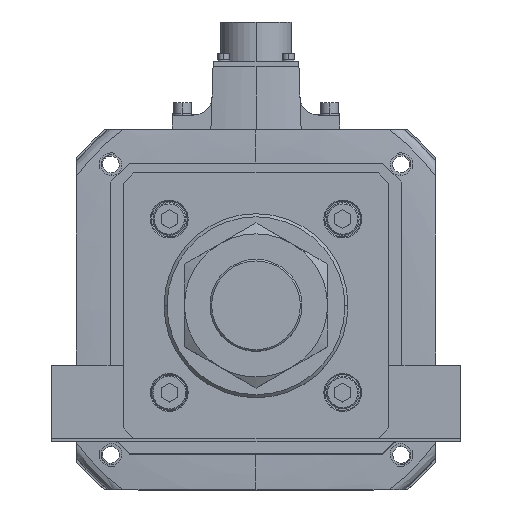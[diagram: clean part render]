
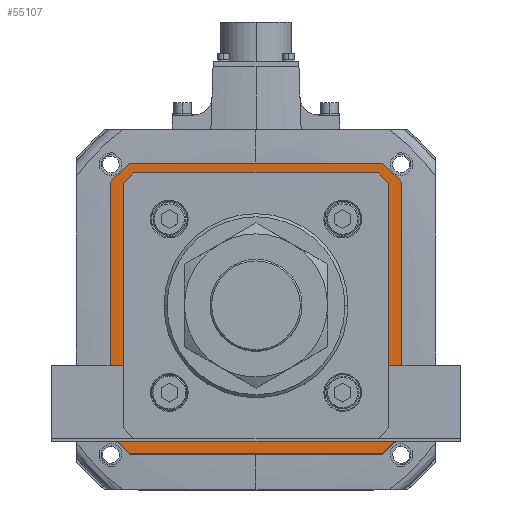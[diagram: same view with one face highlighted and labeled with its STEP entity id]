
A CAD part, top view. The second image highlights one B-rep face of the part: STEP entity #55107.
In plain terms, the highlighted planar face has unit normal (0, 0, 1).
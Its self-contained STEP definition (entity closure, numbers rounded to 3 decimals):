
#333 = CARTESIAN_POINT ( 'NONE',  ( 63., 58.793, -142. ) ) ;
#620 = CARTESIAN_POINT ( 'NONE',  ( 62., -71., -142. ) ) ;
#2076 = CARTESIAN_POINT ( 'NONE',  ( 71., -62., -142. ) ) ;
#2132 = EDGE_CURVE ( 'NONE', #33234, #49293, #38037, .T. ) ;
#3532 = CARTESIAN_POINT ( 'NONE',  ( -63., 58.793, -142. ) ) ;
#3620 = VERTEX_POINT ( 'NONE', #39961 ) ;
#3702 = ORIENTED_EDGE ( 'NONE', *, *, #26116, .T. ) ;
#4775 = VERTEX_POINT ( 'NONE', #45225 ) ;
#4864 = ORIENTED_EDGE ( 'NONE', *, *, #37989, .T. ) ;
#4937 = EDGE_CURVE ( 'NONE', #3620, #32512, #31216, .T. ) ;
#5354 = LINE ( 'NONE', #45738, #37454 ) ;
#5600 = LINE ( 'NONE', #620, #45697 ) ;
#5775 = VECTOR ( 'NONE', #25423, 1000. ) ;
#6009 = VERTEX_POINT ( 'NONE', #15959 ) ;
#7187 = DIRECTION ( 'NONE',  ( 0.707, -0.707, 0. ) ) ;
#8008 = CARTESIAN_POINT ( 'NONE',  ( -71., 62., -142. ) ) ;
#8269 = CARTESIAN_POINT ( 'NONE',  ( 58.793, 63., -142. ) ) ;
#8926 = EDGE_LOOP ( 'NONE', ( #43840, #41835, #3702, #4864, #16173, #40171, #34560, #28325 ) ) ;
#9363 = FACE_OUTER_BOUND ( 'NONE', #46950, .T. ) ;
#9795 = CARTESIAN_POINT ( 'NONE',  ( 62., 71., -142. ) ) ;
#9973 = LINE ( 'NONE', #14229, #17337 ) ;
#10157 = LINE ( 'NONE', #9795, #48911 ) ;
#10252 = VECTOR ( 'NONE', #21084, 1000. ) ;
#10761 = DIRECTION ( 'NONE',  ( -0.707, 0.707, 0. ) ) ;
#10947 = CARTESIAN_POINT ( 'NONE',  ( 0., 63., -142. ) ) ;
#11885 = CARTESIAN_POINT ( 'NONE',  ( -63., 0., -142. ) ) ;
#12358 = LINE ( 'NONE', #10947, #13677 ) ;
#12640 = EDGE_CURVE ( 'NONE', #38811, #32545, #35413, .T. ) ;
#13656 = DIRECTION ( 'NONE',  ( -1., 0., 0. ) ) ;
#13677 = VECTOR ( 'NONE', #53756, 1000. ) ;
#13740 = LINE ( 'NONE', #52349, #50546 ) ;
#13942 = EDGE_CURVE ( 'NONE', #6009, #19151, #26664, .T. ) ;
#14078 = DIRECTION ( 'NONE',  ( -0.707, -0.707, 0. ) ) ;
#14229 = CARTESIAN_POINT ( 'NONE',  ( 60.896, 60.896, -142. ) ) ;
#15671 = ORIENTED_EDGE ( 'NONE', *, *, #48399, .F. ) ;
#15959 = CARTESIAN_POINT ( 'NONE',  ( -62., -71., -142. ) ) ;
#16173 = ORIENTED_EDGE ( 'NONE', *, *, #51238, .T. ) ;
#17337 = VECTOR ( 'NONE', #53152, 1000. ) ;
#17378 = AXIS2_PLACEMENT_3D ( 'NONE', #48519, #35829, #31752 ) ;
#17393 = FACE_BOUND ( 'NONE', #8926, .T. ) ;
#18256 = VECTOR ( 'NONE', #30247, 1000. ) ;
#18468 = PLANE ( 'NONE',  #17378 ) ;
#19151 = VERTEX_POINT ( 'NONE', #19190 ) ;
#19172 = VERTEX_POINT ( 'NONE', #27264 ) ;
#19190 = CARTESIAN_POINT ( 'NONE',  ( -71., -62., -142. ) ) ;
#20613 = EDGE_CURVE ( 'NONE', #19151, #3620, #22356, .T. ) ;
#20673 = EDGE_CURVE ( 'NONE', #33263, #38811, #55085, .T. ) ;
#21084 = DIRECTION ( 'NONE',  ( 0., 1., 0. ) ) ;
#21679 = VECTOR ( 'NONE', #7187, 1000. ) ;
#21798 = LINE ( 'NONE', #31255, #29855 ) ;
#22356 = LINE ( 'NONE', #8008, #10252 ) ;
#22760 = CARTESIAN_POINT ( 'NONE',  ( -62., 71., -142. ) ) ;
#23344 = VERTEX_POINT ( 'NONE', #8269 ) ;
#23377 = ORIENTED_EDGE ( 'NONE', *, *, #13942, .F. ) ;
#24100 = VECTOR ( 'NONE', #14078, 1000. ) ;
#25423 = DIRECTION ( 'NONE',  ( 0.707, 0.707, 0. ) ) ;
#26116 = EDGE_CURVE ( 'NONE', #32545, #19172, #13740, .T. ) ;
#26146 = CARTESIAN_POINT ( 'NONE',  ( 62., -71., -142. ) ) ;
#26257 = CARTESIAN_POINT ( 'NONE',  ( -62., -71., -142. ) ) ;
#26560 = DIRECTION ( 'NONE',  ( -1., 0., 0. ) ) ;
#26664 = LINE ( 'NONE', #26257, #35955 ) ;
#26911 = ORIENTED_EDGE ( 'NONE', *, *, #29760, .F. ) ;
#27137 = DIRECTION ( 'NONE',  ( -0.707, 0.707, 0. ) ) ;
#27264 = CARTESIAN_POINT ( 'NONE',  ( -58.793, -63., -142. ) ) ;
#27496 = EDGE_CURVE ( 'NONE', #43504, #6009, #5600, .T. ) ;
#27772 = LINE ( 'NONE', #51542, #55121 ) ;
#28325 = ORIENTED_EDGE ( 'NONE', *, *, #35480, .T. ) ;
#29760 = EDGE_CURVE ( 'NONE', #32512, #50832, #10157, .T. ) ;
#29855 = VECTOR ( 'NONE', #27137, 1000. ) ;
#30247 = DIRECTION ( 'NONE',  ( 0., -1., 0. ) ) ;
#30800 = EDGE_CURVE ( 'NONE', #49293, #43504, #5354, .T. ) ;
#30984 = CARTESIAN_POINT ( 'NONE',  ( 63., 0., -142. ) ) ;
#31216 = LINE ( 'NONE', #42219, #5775 ) ;
#31255 = CARTESIAN_POINT ( 'NONE',  ( -60.896, -60.896, -142. ) ) ;
#31752 = DIRECTION ( 'NONE',  ( 1., 0., 0. ) ) ;
#32512 = VERTEX_POINT ( 'NONE', #22760 ) ;
#32545 = VERTEX_POINT ( 'NONE', #40483 ) ;
#32787 = CARTESIAN_POINT ( 'NONE',  ( 71., 62., -142. ) ) ;
#33234 = VERTEX_POINT ( 'NONE', #46977 ) ;
#33263 = VERTEX_POINT ( 'NONE', #333 ) ;
#34560 = ORIENTED_EDGE ( 'NONE', *, *, #51172, .T. ) ;
#34981 = ORIENTED_EDGE ( 'NONE', *, *, #27496, .F. ) ;
#34997 = CARTESIAN_POINT ( 'NONE',  ( 60.896, -60.896, -142. ) ) ;
#35413 = LINE ( 'NONE', #34997, #24100 ) ;
#35464 = ORIENTED_EDGE ( 'NONE', *, *, #4937, .F. ) ;
#35480 = EDGE_CURVE ( 'NONE', #23344, #33263, #9973, .T. ) ;
#35640 = CARTESIAN_POINT ( 'NONE',  ( -63., -58.793, -142. ) ) ;
#35829 = DIRECTION ( 'NONE',  ( 0., 0., 1. ) ) ;
#35955 = VECTOR ( 'NONE', #10761, 1000. ) ;
#36572 = DIRECTION ( 'NONE',  ( 0., -1., 0. ) ) ;
#37454 = VECTOR ( 'NONE', #38258, 1000. ) ;
#37989 = EDGE_CURVE ( 'NONE', #19172, #55049, #21798, .T. ) ;
#38037 = LINE ( 'NONE', #48704, #50114 ) ;
#38258 = DIRECTION ( 'NONE',  ( -0.707, -0.707, 0. ) ) ;
#38447 = DIRECTION ( 'NONE',  ( 0.707, 0.707, 0. ) ) ;
#38811 = VERTEX_POINT ( 'NONE', #52027 ) ;
#39886 = DIRECTION ( 'NONE',  ( 1., 0., 0. ) ) ;
#39961 = CARTESIAN_POINT ( 'NONE',  ( -71., 62., -142. ) ) ;
#40171 = ORIENTED_EDGE ( 'NONE', *, *, #50900, .T. ) ;
#40483 = CARTESIAN_POINT ( 'NONE',  ( 58.793, -63., -142. ) ) ;
#41459 = CARTESIAN_POINT ( 'NONE',  ( 62., 71., -142. ) ) ;
#41835 = ORIENTED_EDGE ( 'NONE', *, *, #12640, .T. ) ;
#42219 = CARTESIAN_POINT ( 'NONE',  ( -62., 71., -142. ) ) ;
#42423 = LINE ( 'NONE', #11885, #53156 ) ;
#42713 = ORIENTED_EDGE ( 'NONE', *, *, #30800, .F. ) ;
#43504 = VERTEX_POINT ( 'NONE', #26146 ) ;
#43840 = ORIENTED_EDGE ( 'NONE', *, *, #20673, .T. ) ;
#45046 = LINE ( 'NONE', #32787, #21679 ) ;
#45225 = CARTESIAN_POINT ( 'NONE',  ( -58.793, 63., -142. ) ) ;
#45697 = VECTOR ( 'NONE', #26560, 1000. ) ;
#45738 = CARTESIAN_POINT ( 'NONE',  ( 71., -62., -142. ) ) ;
#46237 = DIRECTION ( 'NONE',  ( 0., 1., 0. ) ) ;
#46950 = EDGE_LOOP ( 'NONE', ( #26911, #35464, #46979, #23377, #34981, #42713, #54516, #15671 ) ) ;
#46977 = CARTESIAN_POINT ( 'NONE',  ( 71., 62., -142. ) ) ;
#46979 = ORIENTED_EDGE ( 'NONE', *, *, #20613, .F. ) ;
#47844 = VERTEX_POINT ( 'NONE', #3532 ) ;
#48399 = EDGE_CURVE ( 'NONE', #50832, #33234, #45046, .T. ) ;
#48519 = CARTESIAN_POINT ( 'NONE',  ( 0., 0., -142. ) ) ;
#48704 = CARTESIAN_POINT ( 'NONE',  ( 71., 62., -142. ) ) ;
#48911 = VECTOR ( 'NONE', #39886, 1000. ) ;
#49293 = VERTEX_POINT ( 'NONE', #2076 ) ;
#50114 = VECTOR ( 'NONE', #36572, 1000. ) ;
#50546 = VECTOR ( 'NONE', #13656, 1000. ) ;
#50832 = VERTEX_POINT ( 'NONE', #41459 ) ;
#50900 = EDGE_CURVE ( 'NONE', #47844, #4775, #27772, .T. ) ;
#51172 = EDGE_CURVE ( 'NONE', #4775, #23344, #12358, .T. ) ;
#51238 = EDGE_CURVE ( 'NONE', #55049, #47844, #42423, .T. ) ;
#51542 = CARTESIAN_POINT ( 'NONE',  ( -60.896, 60.896, -142. ) ) ;
#52027 = CARTESIAN_POINT ( 'NONE',  ( 63., -58.793, -142. ) ) ;
#52349 = CARTESIAN_POINT ( 'NONE',  ( 0., -63., -142. ) ) ;
#53152 = DIRECTION ( 'NONE',  ( 0.707, -0.707, 0. ) ) ;
#53156 = VECTOR ( 'NONE', #46237, 1000. ) ;
#53756 = DIRECTION ( 'NONE',  ( 1., 0., 0. ) ) ;
#54516 = ORIENTED_EDGE ( 'NONE', *, *, #2132, .F. ) ;
#55049 = VERTEX_POINT ( 'NONE', #35640 ) ;
#55085 = LINE ( 'NONE', #30984, #18256 ) ;
#55107 = ADVANCED_FACE ( 'NONE', ( #17393, #9363 ), #18468, .T. ) ;
#55121 = VECTOR ( 'NONE', #38447, 1000. ) ;
